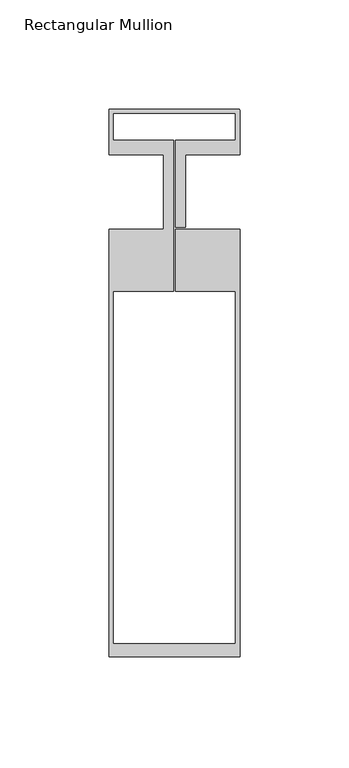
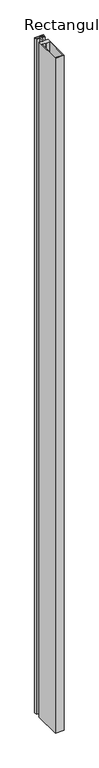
"""IFC4 building model written with IfcOpenShell, lengths in millimetres: member geometry, Rectangular Mullion : FMO60-200-S...FM60-17."""

from ifc_helpers import new_model, si_unit, point, frame, frame_2d, origin, place, context, project, spatial, polyline, circle_curve, trimmed, segment, composite_curve, outline, extrude, source, transform, mapped, element, save


def rectangular_mullion_d6cc62e9(model_context):
    return source(origin(), model_context, "Body", "SweptSolid", [
        extrude(outline(composite_curve([segment(polyline([(-29.5, 38.0025783), (29.5, 38.0025783)]), True, "CONTINUOUS"), segment(trimmed(circle_curve(frame_2d((29.5, 37.5025783)), 0.5), [point((29.5, 38.0025783))], [point((30.0, 37.5025783))], False, "CARTESIAN"), True, "CONTINUOUS"), segment(polyline([(30.0, 37.5025783), (30.0, 17.0), (5.0, 17.0), (5.0, -16.2), (0.5, -16.2), (0.5, 23.8476589), (28.0000412, 23.8476589), (28.0000412, 36.0025783), (-28.0000412, 36.0025783), (-28.0000412, 23.8476589), (-0.5, 23.8476589), (-0.5, -45.5034642), (-28.0, -45.5034642), (-28.0, -207.009342), (28.0, -207.009342), (28.0, -45.5034642), (0.5, -45.5034642), (0.5, -17.0), (30.0, -17.0), (30.0, -213.009342), (-30.0, -213.009342), (-30.0, -17.0), (-5.0, -17.0), (-5.0, 17.0), (-30.0, 17.0), (-30.0, 37.5025783)]), True, "CONTINUOUS"), segment(trimmed(circle_curve(frame_2d((-29.5, 37.5025783)), 0.5), [point((-30.0, 37.5025783))], [point((-29.5, 38.0025783))], False, "CARTESIAN"), True, "CONTINUOUS")], self_intersect=False)), frame((0.0, 0.0, -5000.0), z_axis=(0.0, 0.0, 1.0), x_axis=(1.0, 0.0, 0.0)), (0.0, 0.0, 1.0), 5000.0),
    ])


if __name__ == "__main__":
    model = new_model("IFC4")
    model_context = context("Model", 3, world=origin())
    ifc_project = project(units=[si_unit("LENGTHUNIT", "METRE", prefix="MILLI")], contexts=[model_context])
    site = spatial("IfcSite", under=ifc_project)
    building = spatial("IfcBuilding", under=site)
    placement = place(None, origin())
    rectangular_mullion_shape = rectangular_mullion_d6cc62e9(model_context)
    element("IfcMember", 1, ObjectType="Rectangular Mullion : FMO60-200-S...FM60-17", at=placement, inside=building, context=model_context, shape_type="MappedRepresentation", body=[
        mapped(rectangular_mullion_shape, transform((0.0, 0.0, 0.0), x_axis=(1.0, 0.0, 0.0), y_axis=(0.0, 1.0, 0.0), z_axis=(0.0, 0.0, 1.0))),
    ])
    save(model, "model.ifc")
